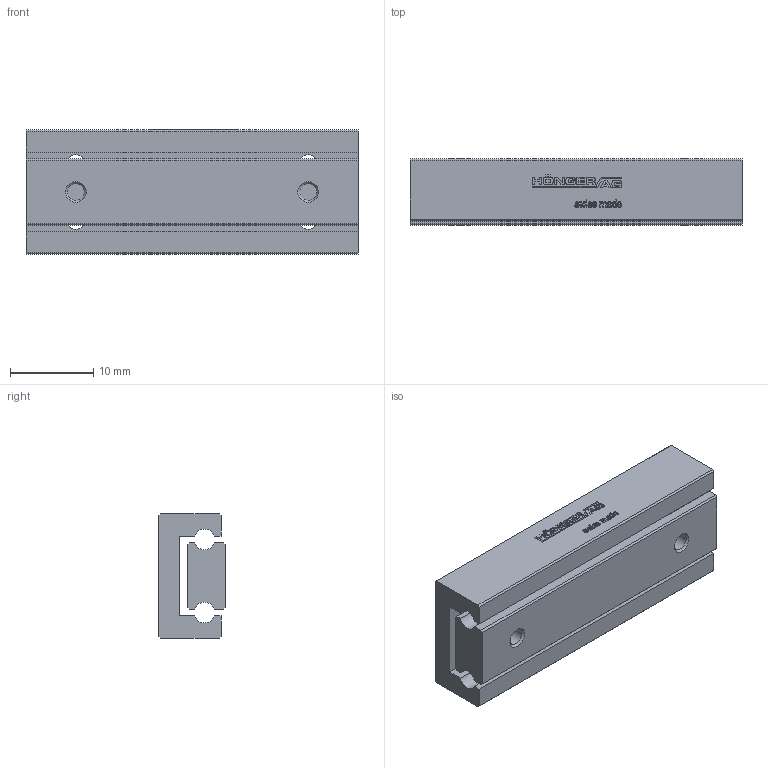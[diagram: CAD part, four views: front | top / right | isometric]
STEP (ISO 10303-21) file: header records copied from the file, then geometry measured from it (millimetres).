
FILE_DESCRIPTION(/* description */ ('STEP AP214'),/* implementation_level */ '2;1');
FILE_NAME(/* name */ 'NDN 2-40.30(0)',/* time_stamp */ '2025-04-16T17:12:24+02:00',/* author */ ('License CC BY-ND 4.0'),/* organization */ ('CADENAS'),/* preprocessor_version */ 'ST-DEVELOPER v19.3',/* originating_system */ 'PARTsolutions',/* authorisation */ ' ');
FILE_SCHEMA (('AUTOMOTIVE_DESIGN {1 0 10303 214 3 1 1}'));
Length unit declared in the file: millimetre
Products named in the file (3): NDN 2-40.30(0); NDN 2-40.30_1; NDN 2-40.30_2
Assembly tree (2 placements, depth 2):
  NDN 2-40.30(0)
    NDN 2-40.30_1
    NDN 2-40.30_2
Bounding box: 40 x 8 x 15 mm (x, y, z)
Volume: 3714.1 mm3; surface area: 3567.2 mm2
Topology: 2 solids, 2 shells, 511 faces, 1432 edges, 952 vertices
Faces by surface type: cylinder 302, plane 201, cone 8
Full cylindrical faces by diameter (mm): 2.013 x6
Entity records: 16723 total; most frequent: DIRECTION 3058, CARTESIAN_POINT 2884, ORIENTED_EDGE 2836, EDGE_CURVE 1418, AXIS2_PLACEMENT_3D 1126, VERTEX_POINT 952, LINE 806, VECTOR 806
